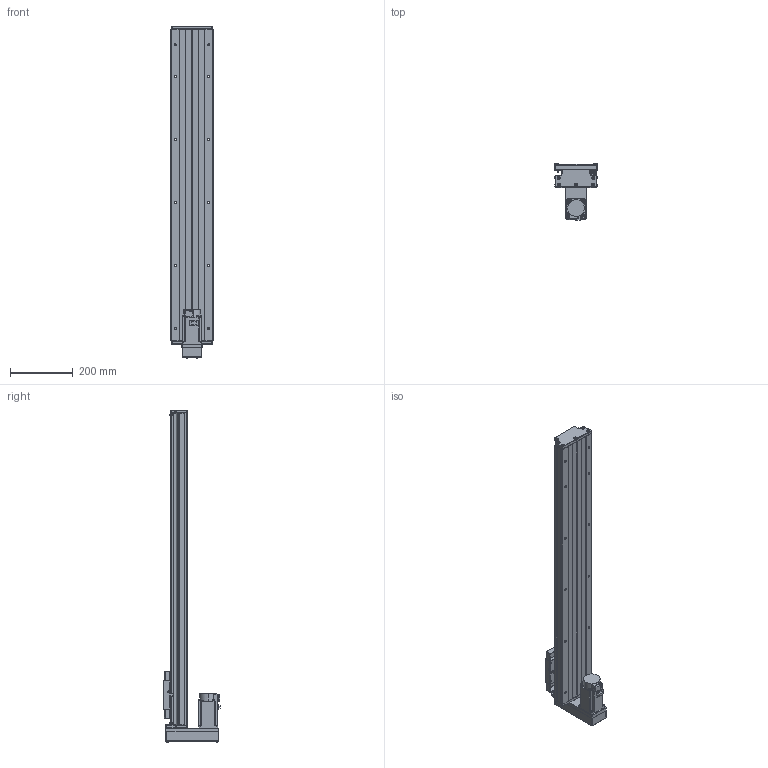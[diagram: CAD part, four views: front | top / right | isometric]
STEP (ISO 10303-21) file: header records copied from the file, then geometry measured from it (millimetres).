
FILE_DESCRIPTION (( 'STEP AP203' ), '1' );
FILE_NAME ('CTH130-800-BM-M40-C4.step', '2023-06-30T02:46:18', ( '微软用户' ), ( '微软中国' ), 'SwSTEP 2.0', 'SolidWorks 2020', '' );
FILE_SCHEMA (( 'CONFIG_CONTROL_DESIGN' ));
Length unit declared in the file: millimetre
Products named in the file (20): GB1155-6X6; CTH130-031; GTH14-015-2_CTHA86-015-2; GBT70.1 M5℅16; GTH14-033; GTH14-001_800; CTHA60-017; CTH130-800-BM-M40-C4; CTH130-002_GTH14-002; EE_SX911P_R; GBT 70.2-M3¡Á5_M3¡Á6; GB T308.1-2013-6.35; CTHA60-016; す晦芛蹟隊 M3℅5; GTH14-004; GBT 70.1-M3℅5; HG-KN43J-S100; GTH14-005; GBT77-2000 M3×3; GBT 70.2-M4¡Á35_M4¡Á35
Assembly tree (60 placements, depth 2):
  CTH130-800-BM-M40-C4
    GTH14-001_800
    CTH130-002_GTH14-002
    GB T308.1-2013-6.35  x2
    GTH14-004
    GTH14-005
    GB1155-6X6  x2
    GBT70.1 M5℅16  x10
    CTHA60-017  x3
    EE_SX911P_R  x3
    CTHA60-016  x2
    GBT 70.1-M3℅5  x6
    GBT77-2000 M3×3  x6
    CTH130-031
    GBT 70.2-M3¡Á5_M3¡Á6  x8
    す晦芛蹟隊 M3℅5  x6
    HG-KN43J-S100
    GBT 70.2-M4¡Á35_M4¡Á35  x4
    GTH14-015-2_CTHA86-015-2
    GTH14-033
Bounding box: 135 x 179.8 x 1054.2 mm (x, y, z)
Volume: 5588474.5 mm3; surface area: 924357.6 mm2
Topology: 63 solids, 63 shells, 2445 faces, 5821 edges, 3601 vertices
Faces by surface type: plane 1312, cylinder 654, cone 299, torus 124, sphere 36, bspline 20
Entity records: 44232 total; most frequent: CARTESIAN_POINT 9897, DIRECTION 6462, ORIENTED_EDGE 6348, EDGE_CURVE 3174, AXIS2_PLACEMENT_3D 2210, VECTOR 2042, LINE 2042, VERTEX_POINT 2011
